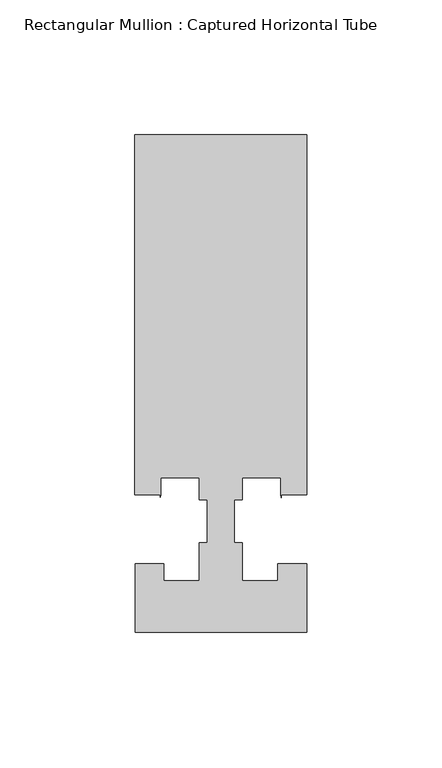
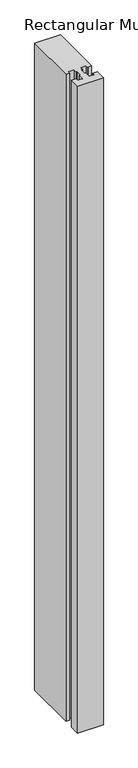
"""IFC4 building model written with IfcOpenShell, lengths in millimetres: member geometry, Rectangular Mullion : Captured Horizontal Tube."""

from ifc_helpers import new_model, si_unit, frame, origin, place, context, project, spatial, polyline, outline, extrude, source, transform, mapped, element, save


def rectangular_mullion_captured_horizontal_tube_6923a6ff(model_context):
    return source(origin(), model_context, "Body", "SweptSolid", [
        extrude(outline(polyline([(31.7705663, 114.3), (31.7705663, -18.933673), (22.3913824, -18.933673), (22.3913824, -20.0839351), (22.2251125, -18.933673), (22.2251125, -12.7), (8.0416658, -12.7), (8.0416658, -20.8793999), (4.988785, -20.8793999), (4.988785, -36.6491027), (7.9374472, -36.6491027), (7.9374472, -50.8001709), (21.0845479, -50.8001709), (21.0845479, -44.4245655), (31.7705663, -44.4245655), (31.7705663, -69.8502416), (-31.7294337, -69.8502416), (-31.7294337, -44.4247364), (-21.0270883, -44.4247364), (-21.0270883, -50.8001709), (-7.9375539, -50.8001709), (-7.9375539, -36.6491027), (-4.9639474, -36.6491027), (-4.9639474, -20.8793999), (-7.9375542, -20.8793999), (-7.9375542, -12.7), (-22.2250091, -12.7), (-22.2250091, -18.948961), (-22.4113151, -19.8905485), (-22.4113151, -18.9488461), (-31.75, -18.9488461), (-31.75, 114.3), (31.7705663, 114.3)])), frame((0.0, 0.0, -1692.2396178), z_axis=(0.0, 0.0, 1.0), x_axis=(1.0, 0.0, 0.0)), (0.0, 0.0, 1.0), 1692.2396178),
    ])


if __name__ == "__main__":
    model = new_model("IFC4")
    model_context = context("Model", 3, world=origin())
    ifc_project = project(units=[si_unit("LENGTHUNIT", "METRE", prefix="MILLI")], contexts=[model_context])
    site = spatial("IfcSite", under=ifc_project)
    building = spatial("IfcBuilding", under=site)
    placement = place(None, origin())
    rectangular_mullion_captured_horizontal_tube_shape = rectangular_mullion_captured_horizontal_tube_6923a6ff(model_context)
    element("IfcMember", 1, ObjectType="Rectangular Mullion : Captured Horizontal Tube", at=placement, inside=building, context=model_context, shape_type="MappedRepresentation", body=[
        mapped(rectangular_mullion_captured_horizontal_tube_shape, transform((0.0, 0.0, 0.0), x_axis=(1.0, 0.0, 0.0), y_axis=(0.0, 1.0, 0.0), z_axis=(0.0, 0.0, 1.0))),
    ])
    save(model, "model.ifc")
